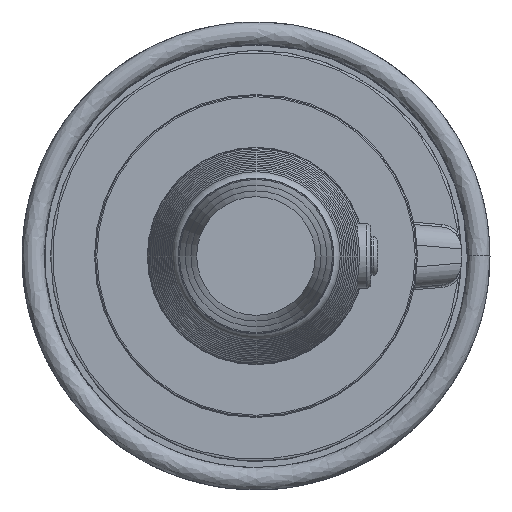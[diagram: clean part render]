
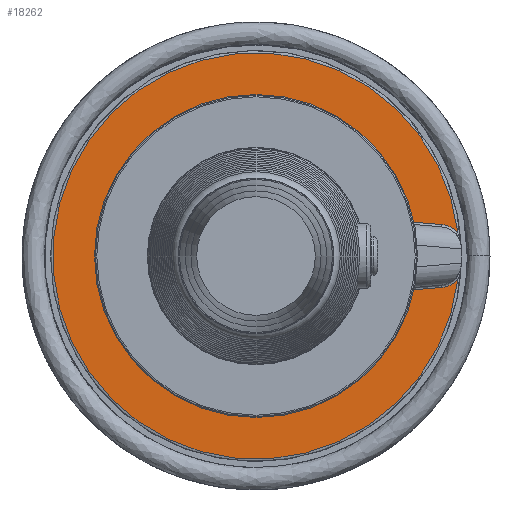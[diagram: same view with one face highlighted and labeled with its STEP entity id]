
A CAD part, left-side view. The second image highlights one B-rep face of the part: STEP entity #18262.
In plain terms, the highlighted planar face has unit normal (-1, 0, 0).
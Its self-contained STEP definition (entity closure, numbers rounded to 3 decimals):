
#1148=LINE('',#44556,#2219);
#1150=LINE('',#44579,#2221);
#2219=VECTOR('',#22500,10.);
#2221=VECTOR('',#22530,10.);
#2958=PLANE('',#19347);
#3772=FACE_OUTER_BOUND('',#4861,.T.);
#4861=EDGE_LOOP('',(#15175,#15176,#15177,#15178,#15179,#15180,#15181,#15182));
#5360=CIRCLE('',#19292,21.);
#5363=CIRCLE('',#19297,8.);
#5366=CIRCLE('',#19301,113.);
#5369=CIRCLE('',#19305,8.);
#5373=CIRCLE('',#19311,21.);
#5378=CIRCLE('',#19324,178.);
#7940=VERTEX_POINT('',#44536);
#7941=VERTEX_POINT('',#44549);
#7943=VERTEX_POINT('',#44554);
#7945=VERTEX_POINT('',#44560);
#7947=VERTEX_POINT('',#44566);
#7949=VERTEX_POINT('',#44572);
#7950=VERTEX_POINT('',#44577);
#7951=VERTEX_POINT('',#44582);
#10321=EDGE_CURVE('',#7941,#7940,#5360,.T.);
#10323=EDGE_CURVE('',#7943,#7941,#1148,.T.);
#10326=EDGE_CURVE('',#7945,#7943,#5363,.T.);
#10329=EDGE_CURVE('',#7947,#7945,#5366,.T.);
#10332=EDGE_CURVE('',#7949,#7947,#5369,.T.);
#10335=EDGE_CURVE('',#7950,#7949,#1150,.T.);
#10338=EDGE_CURVE('',#7951,#7950,#5373,.T.);
#10354=EDGE_CURVE('',#7940,#7951,#5378,.T.);
#15175=ORIENTED_EDGE('',*,*,#10338,.F.);
#15176=ORIENTED_EDGE('',*,*,#10354,.F.);
#15177=ORIENTED_EDGE('',*,*,#10321,.F.);
#15178=ORIENTED_EDGE('',*,*,#10323,.F.);
#15179=ORIENTED_EDGE('',*,*,#10326,.F.);
#15180=ORIENTED_EDGE('',*,*,#10329,.F.);
#15181=ORIENTED_EDGE('',*,*,#10332,.F.);
#15182=ORIENTED_EDGE('',*,*,#10335,.F.);
#18262=ADVANCED_FACE('',(#3772),#2958,.T.);
#19292=AXIS2_PLACEMENT_3D('',#44551,#22494,#22495);
#19297=AXIS2_PLACEMENT_3D('',#44562,#22506,#22507);
#19301=AXIS2_PLACEMENT_3D('',#44568,#22514,#22515);
#19305=AXIS2_PLACEMENT_3D('',#44574,#22522,#22523);
#19311=AXIS2_PLACEMENT_3D('',#44584,#22536,#22537);
#19324=AXIS2_PLACEMENT_3D('',#44693,#22568,#22569);
#19347=AXIS2_PLACEMENT_3D('',#45151,#22616,#22617);
#22494=DIRECTION('center_axis',(-1.,0.,0.));
#22495=DIRECTION('ref_axis',(0.,-0.535,-0.845));
#22500=DIRECTION('',(0.,-0.996,0.087));
#22506=DIRECTION('center_axis',(1.,0.,0.));
#22507=DIRECTION('ref_axis',(0.,0.614,0.789));
#22514=DIRECTION('center_axis',(-1.,0.,0.));
#22515=DIRECTION('ref_axis',(0.,1.,0.));
#22522=DIRECTION('center_axis',(1.,0.,0.));
#22523=DIRECTION('ref_axis',(0.,0.614,-0.789));
#22530=DIRECTION('',(0.,0.996,0.087));
#22536=DIRECTION('center_axis',(-1.,0.,0.));
#22537=DIRECTION('ref_axis',(0.,-0.535,0.845));
#22568=DIRECTION('center_axis',(1.,0.,0.));
#22569=DIRECTION('ref_axis',(0.,1.,0.));
#22616=DIRECTION('center_axis',(-1.,0.,0.));
#22617=DIRECTION('ref_axis',(0.,0.,
-1.));
#44536=CARTESIAN_POINT('',(-155.,-176.847,-20.223));
#44549=CARTESIAN_POINT('',(-155.,-162.695,-27.522));
#44551=CARTESIAN_POINT('Origin',(-155.,-160.865,-6.602));
#44554=CARTESIAN_POINT('',(-155.,-113.574,-31.819));
#44556=CARTESIAN_POINT('',(-155.,20.898,-43.584));
#44560=CARTESIAN_POINT('',(-155.,-106.716,-37.158));
#44562=CARTESIAN_POINT('Origin',(-155.,-114.271,-39.789));
#44566=CARTESIAN_POINT('',(-155.,-106.716,37.158));
#44568=CARTESIAN_POINT('Origin',(-155.,0.,
0.));
#44572=CARTESIAN_POINT('',(-155.,-113.574,31.819));
#44574=CARTESIAN_POINT('Origin',(-155.,-114.271,39.789));
#44577=CARTESIAN_POINT('',(-155.,-162.695,27.522));
#44579=CARTESIAN_POINT('',(-155.,20.898,43.584));
#44582=CARTESIAN_POINT('',(-155.,-176.847,20.223));
#44584=CARTESIAN_POINT('Origin',(-155.,-160.865,6.602));
#44693=CARTESIAN_POINT('Origin',(-155.,0.,
0.));
#45151=CARTESIAN_POINT('Origin',(-155.,179.,0.));
